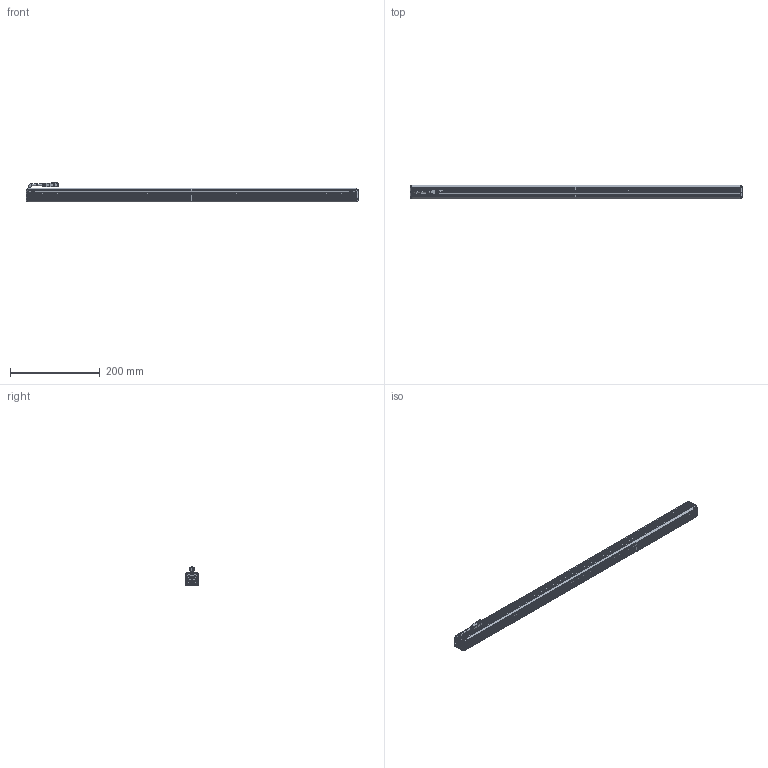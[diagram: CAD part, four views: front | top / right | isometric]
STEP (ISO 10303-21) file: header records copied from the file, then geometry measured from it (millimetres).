
FILE_DESCRIPTION((''),'2;1');
FILE_NAME('MV-LLDS-H-800-30-W-PL_ASM','2024-04-08T14:30:31',('huguozhe'),(''),'CREO PARAMETRIC BY PTC INC, 2020044','CREO PARAMETRIC BY PTC INC, 2020044','');
FILE_SCHEMA(('AUTOMOTIVE_DESIGN { 1 0 10303 214 1 1 1 1 }'));
Length unit declared in the file: millimetre
Products named in the file (15): DE-15-001272; DE-15-001271_ASM; DE-15-000524; DE-15-000523_ASM; DE-12-002271; TIP-M3X4-4_5X5-SO-ET-07061033; DE-12-002271_ASM; DE-12-001582; SC-KM2X6-BNI-GB819; XIANLAN_HEAD; CABLE_HEAD; CABLE_HEAD_ASM_ASM; 190100852; SC-PM2X6B-JMP; MV-LLDS-H-800-30-W-PL_ASM
Assembly tree (34 placements, depth 3):
  MV-LLDS-H-800-30-W-PL_ASM
    DE-15-001271_ASM
      DE-15-001272
    DE-15-000523_ASM
      DE-15-000524
    DE-12-002271_ASM  x2
      DE-12-002271
      TIP-M3X4-4_5X5-SO-ET-07061033
    DE-12-001582
    SC-KM2X6-BNI-GB819  x5
    CABLE_HEAD_ASM_ASM
      XIANLAN_HEAD
      CABLE_HEAD
    190100852  x8
    SC-PM2X6B-JMP  x8
Bounding box: 738 x 30 x 42.65 mm (x, y, z)
Volume: 508116.1 mm3; surface area: 271179 mm2
Topology: 32 solids, 70 shells, 2857 faces, 7361 edges, 4631 vertices
Faces by surface type: plane 1374, cylinder 626, bspline 472, cone 324, torus 52, sphere 8, extrusion 1
Entity records: 48593 total; most frequent: CARTESIAN_POINT 11330, ORIENTED_EDGE 6240, DIRECTION 6038, EDGE_CURVE 3154, AXIS2_PLACEMENT_3D 2021, VERTEX_POINT 2021, VECTOR 1996, LINE 1995
